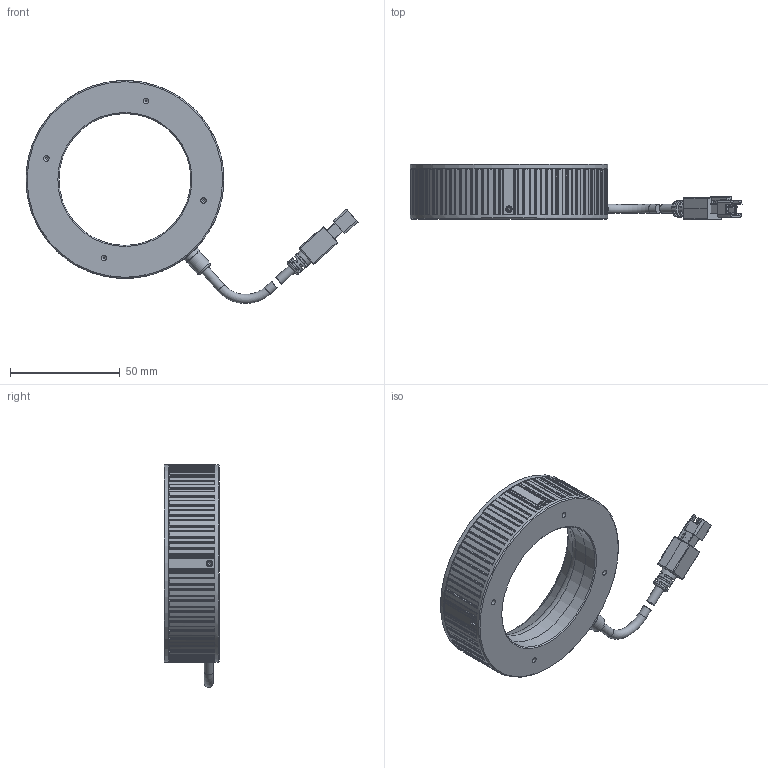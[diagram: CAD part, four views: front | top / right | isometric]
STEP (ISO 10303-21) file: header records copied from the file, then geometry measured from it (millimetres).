
FILE_DESCRIPTION (( 'STEP AP203' ), '1' );
FILE_NAME ('OPT-IRI9060-IR-V1.0U尨砩芞.STEP', '2025-02-15T00:56:54', ( '' ), ( '' ), 'SwSTEP 2.0', 'SolidWorks 2016', '' );
FILE_SCHEMA (( 'CONFIG_CONTROL_DESIGN' ));
Length unit declared in the file: millimetre
Products named in the file (1): OPT-IRI9060-IR-V1.0U尨砩芞
Bounding box: 151.07 x 25.2 x 101.39 mm (x, y, z)
Volume: 62412.9 mm3; surface area: 41210.3 mm2
Topology: 6 solids, 6 shells, 852 faces, 2362 edges, 1525 vertices
Faces by surface type: plane 395, cylinder 336, cone 87, bspline 20, torus 14
Full cylindrical faces by diameter (mm): 1.1 x4, 1.4 x4, 1.6 x4, 1.8 x4, 2 x4, 2.2 x4, 2.5 x4, 3.5 x1, 4.1 x3, 7.5 x2, 8 x1, 60 x2, 62.2 x1, 67.8 x1, 70.683 x1, 76.08 x1, 82 x1, 86 x1, 90 x2
Entity records: 28407 total; most frequent: CARTESIAN_POINT 7688, ORIENTED_EDGE 4466, DIRECTION 4022, EDGE_CURVE 2233, VERTEX_POINT 1489, AXIS2_PLACEMENT_3D 1476, LINE 1070, VECTOR 1070
